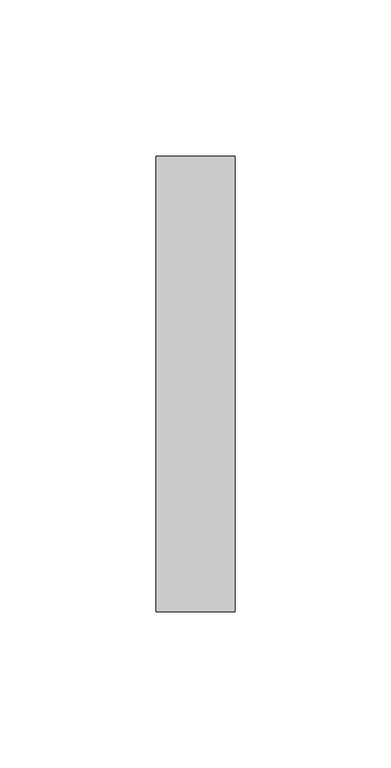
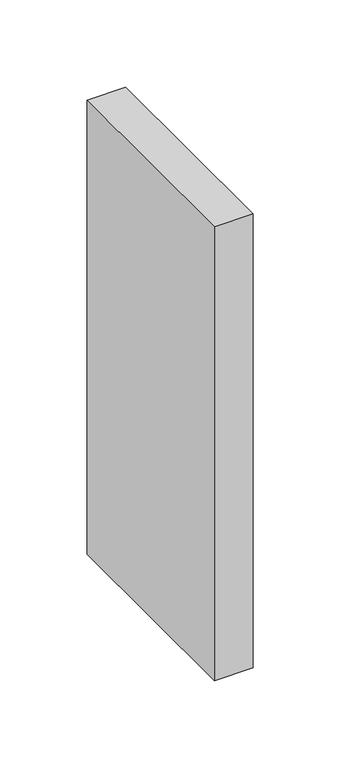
"""IFC4 building model written with IfcOpenShell, lengths in millimetres: proxy geometry, CAMBRIDGE^TABLE 2_4884 Rect-TOP STILE 3."""

from ifc_helpers import new_model, si_unit, frame, origin, place, context, project, spatial, polyline, outline, extrude, source, transform, mapped, element, save


def generic_models_bb5179e9(model_context):
    return source(origin(), model_context, "Body", "SweptSolid", [
        extrude(outline(polyline([(1498.6, 0.0), (1524.0, 0.0), (1524.0, -146.05), (1498.6, -146.05), (1498.6, 0.0)])), frame((0.0, 0.0, -768.35), z_axis=(0.0, 0.0, 1.0), x_axis=(1.0, 0.0, 0.0)), (0.0, 0.0, 1.0), 317.5),
    ])


if __name__ == "__main__":
    model = new_model("IFC4")
    model_context = context("Model", 3, world=origin())
    ifc_project = project(units=[si_unit("LENGTHUNIT", "METRE", prefix="MILLI")], contexts=[model_context])
    site = spatial("IfcSite", under=ifc_project)
    building = spatial("IfcBuilding", under=site)
    placement = place(None, origin())
    generic_models_shape = generic_models_bb5179e9(model_context)
    element("IfcBuildingElementProxy", 1, Name="CAMBRIDGE^TABLE 2_4884 Rect-TOP STILE 3", ObjectType="CAMBRIDGE^TABLE 2_4884 Rect-TOP STILE 3", at=placement, inside=building, context=model_context, shape_type="MappedRepresentation", body=[
        mapped(generic_models_shape, transform((0.0, 0.0, 0.0), x_axis=(1.0, 0.0, 0.0), y_axis=(0.0, 1.0, 0.0), z_axis=(0.0, 0.0, 1.0))),
    ])
    save(model, "model.ifc")
